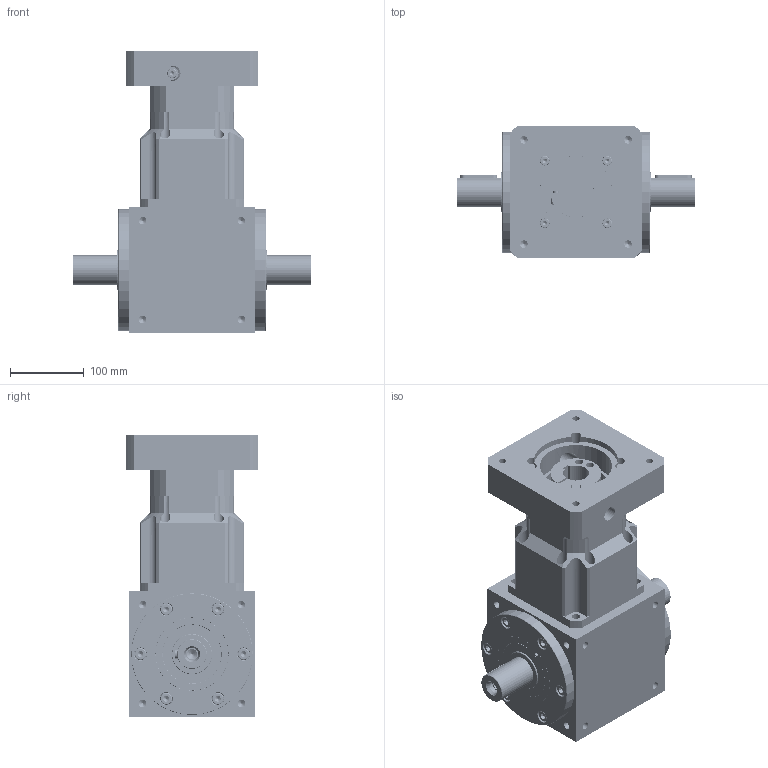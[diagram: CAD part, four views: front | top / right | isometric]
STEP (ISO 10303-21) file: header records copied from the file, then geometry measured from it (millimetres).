
FILE_DESCRIPTION (( 'STEP AP214' ), '1' );
FILE_NAME ('LAT170-FL-AB142-L2-35J10-114.3-200-M12蛌砃儂.STEP', '2025-03-06T05:20:09', ( 'Windows 蚚誧' ), ( 'Organization' ), 'SwSTEP 2.0', 'SolidWorks 2023', '' );
FILE_SCHEMA (( 'AUTOMOTIVE_DESIGN' ));
Length unit declared in the file: millimetre
Products named in the file (1): LAT170-FL-AB142-L2-35J10-114.3-200-M12转向机
Bounding box: 324 x 180 x 382 mm (x, y, z)
Volume: 6460345.1 mm3; surface area: 926627.1 mm2
Topology: 36 solids, 36 shells, 4026 faces, 8604 edges, 4627 vertices
Faces by surface type: cone 2058, cylinder 1451, plane 475, torus 38, bspline 4
Entity records: 107539 total; most frequent: DIRECTION 20366, CARTESIAN_POINT 19472, ORIENTED_EDGE 16888, EDGE_CURVE 8444, AXIS2_PLACEMENT_3D 8096, VERTEX_POINT 4627, EDGE_LOOP 4307, VECTOR 4174
